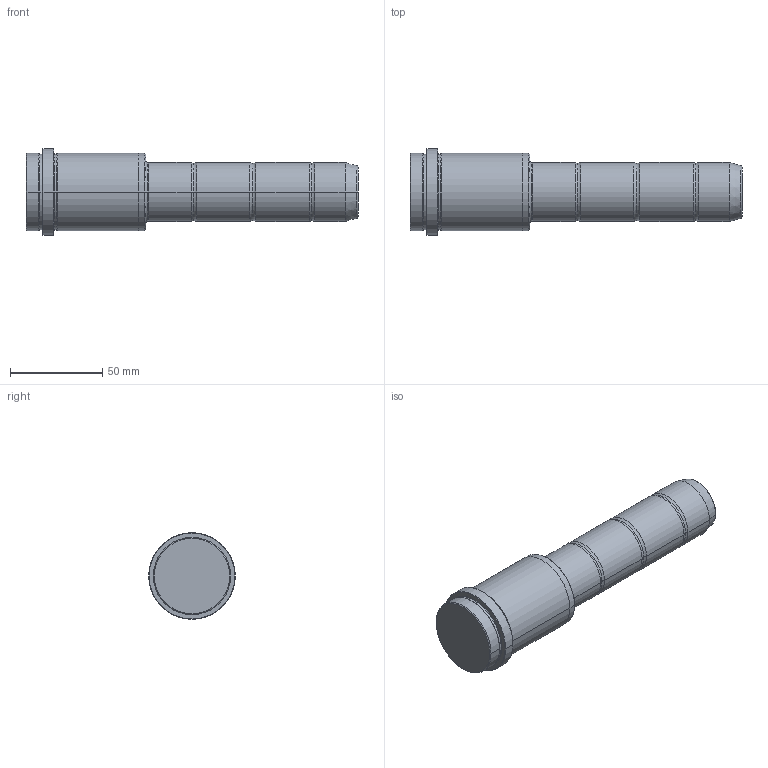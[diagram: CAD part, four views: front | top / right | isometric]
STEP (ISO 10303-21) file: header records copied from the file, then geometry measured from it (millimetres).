
FILE_DESCRIPTION (( 'STEP AP203' ), '1' );
FILE_NAME ('GDP-EC-32-056-115.step', '2015-12-05T14:38:57', ( '' ), ( '' ), 'SwSTEP 2.0', 'SolidWorks 2009', '' );
FILE_SCHEMA (( 'CONFIG_CONTROL_DESIGN' ));
Length unit declared in the file: millimetre
Products named in the file (1): GDP-EC-32-056-115
Bounding box: 180 x 47 x 47 mm (x, y, z)
Volume: 183478.7 mm3; surface area: 23516.7 mm2
Topology: 1 solids, 1 shells, 64 faces, 126 edges, 70 vertices
Faces by surface type: torus 26, cylinder 20, cone 10, plane 8
Entity records: 1727 total; most frequent: DIRECTION 352, CARTESIAN_POINT 261, ORIENTED_EDGE 252, AXIS2_PLACEMENT_3D 161, EDGE_CURVE 126, CIRCLE 96, EDGE_LOOP 70, VERTEX_POINT 70
